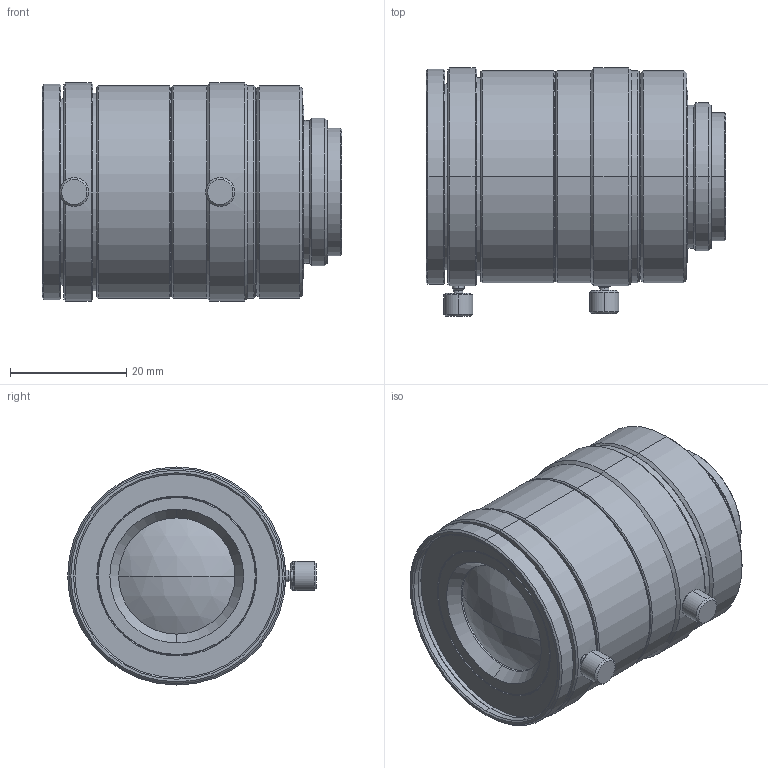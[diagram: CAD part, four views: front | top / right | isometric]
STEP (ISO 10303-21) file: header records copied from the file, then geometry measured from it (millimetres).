
FILE_DESCRIPTION (( 'STEP AP214' ), '1' );
FILE_NAME ('VS-HVA2524.STEP', '2021-07-05T08:00:58', ( '' ), ( '' ), 'SwSTEP 2.0', 'SolidWorks 2021', '' );
FILE_SCHEMA (( 'AUTOMOTIVE_DESIGN' ));
Length unit declared in the file: millimetre
Products named in the file (1): VS-HVA2524
Bounding box: 51.5 x 42.75 x 37.5 mm (x, y, z)
Volume: 47701.9 mm3; surface area: 9852.9 mm2
Topology: 1 solids, 1 shells, 127 faces, 256 edges, 150 vertices
Faces by surface type: cone 60, cylinder 44, plane 19, sphere 4
Entity records: 3392 total; most frequent: DIRECTION 656, CARTESIAN_POINT 598, ORIENTED_EDGE 512, AXIS2_PLACEMENT_3D 276, EDGE_CURVE 256, VERTEX_POINT 150, CIRCLE 148, EDGE_LOOP 146
